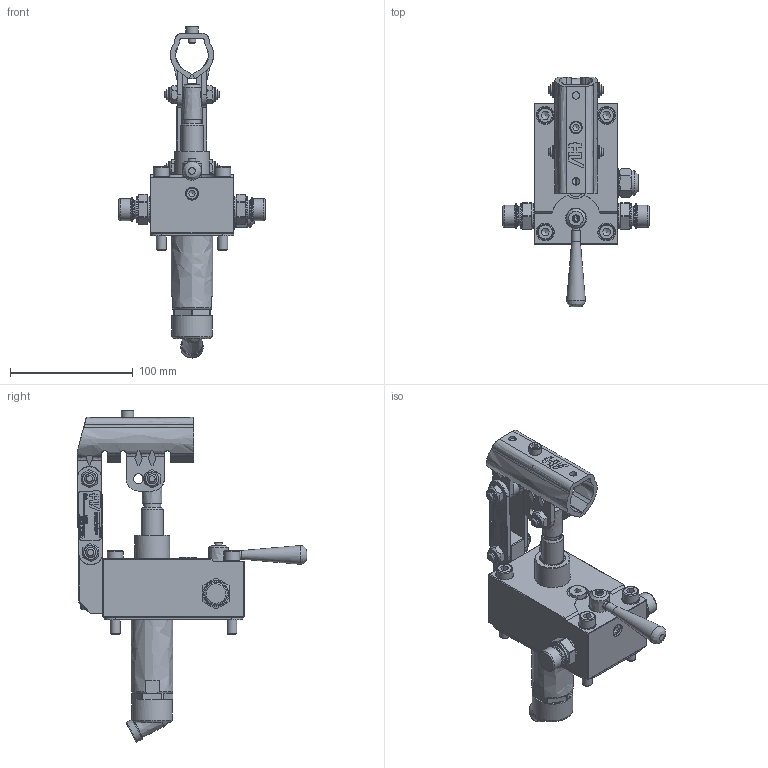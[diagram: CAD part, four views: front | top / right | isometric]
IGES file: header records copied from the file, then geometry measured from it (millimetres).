
Global section: file name: No Iges File Name specified; native system: Autodesk Inventor 2013; preprocessor: AutoDesk Inventor Iges Exporter R2013; author: christian.scardovi; date: 20240304.090228; units: millimetre
Bounding box: 119 x 187 x 270.34 mm (x, y, z)
Surface area: 122728.2 mm2
Topology: 2 solids, 3 shells, 1399 faces, 3519 edges, 2258 vertices
Faces by surface type: bspline 1399
